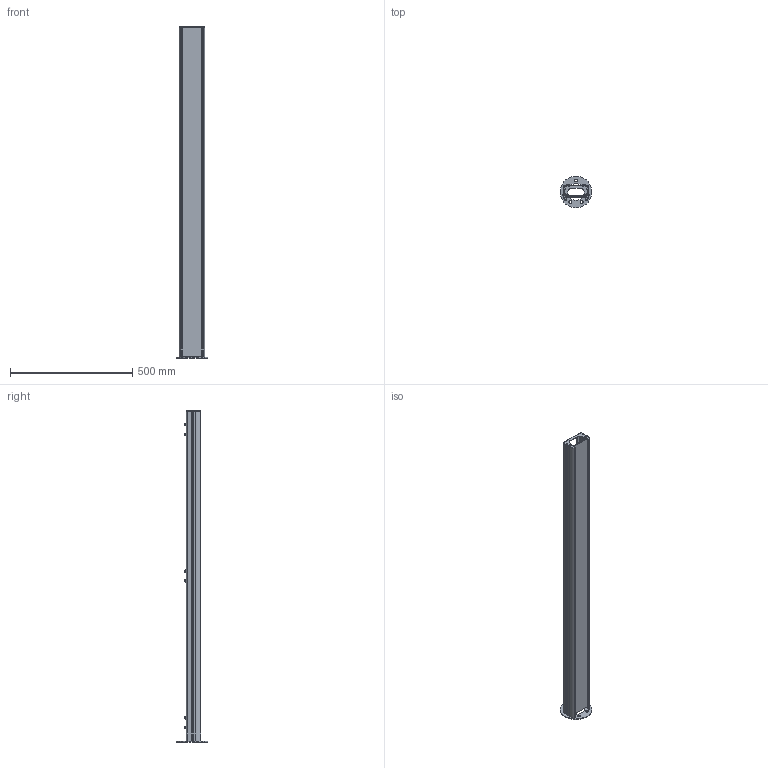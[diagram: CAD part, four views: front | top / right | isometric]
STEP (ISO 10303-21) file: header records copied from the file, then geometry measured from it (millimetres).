
FILE_DESCRIPTION(/* description */ (''),/* implementation_level */ '2;1');
FILE_NAME(/* name */ '0002A__SINGLE_MIRROR_WITH_GASKET-1350mm.stp',/* time_stamp */ '2025-11-12T15:20:11+01:00',/* author */ (''),/* organization */ (''),/* preprocessor_version */ 'ST-DEVELOPER v20',/* originating_system */ 'SIEMENS PLM Software NX2412.4001',/* authorisation */ '');
FILE_SCHEMA (('AP203_CONFIGURATION_CONTROLLED_3D_DESIGN_OF_MECHANICAL_PARTS_AND_ASSEMBLIES_MIM_LF { 1 0 10303 403 2 1 2}'));
Products named in the file (1): AS007808_objects
Bounding box: 130 x 130 x 1358.25 mm (x, y, z)
Volume: 5330535.5 mm3; surface area: 5152847.5 mm2
Topology: 84 solids, 84 shells, 4001 faces, 11362 edges, 7557 vertices
Faces by surface type: plane 2062, cylinder 1303, cone 608, torus 18, bspline 6, sphere 4
Full cylindrical faces by diameter (mm): 4.2 x12, 5 x228, 5.25 x2, 5.3 x12, 5.5 x24, 5.6 x12, 5.795 x2, 7 x12, 7.2 x4, 8.5 x12, 10 x12, 12 x5, 68 x1, 130 x1
Entity records: 145094 total; most frequent: CARTESIAN_POINT 35722, DIRECTION 23200, ORIENTED_EDGE 21520, EDGE_CURVE 10760, AXIS2_PLACEMENT_3D 8802, VERTEX_POINT 7326, LINE 5596, VECTOR 5596
